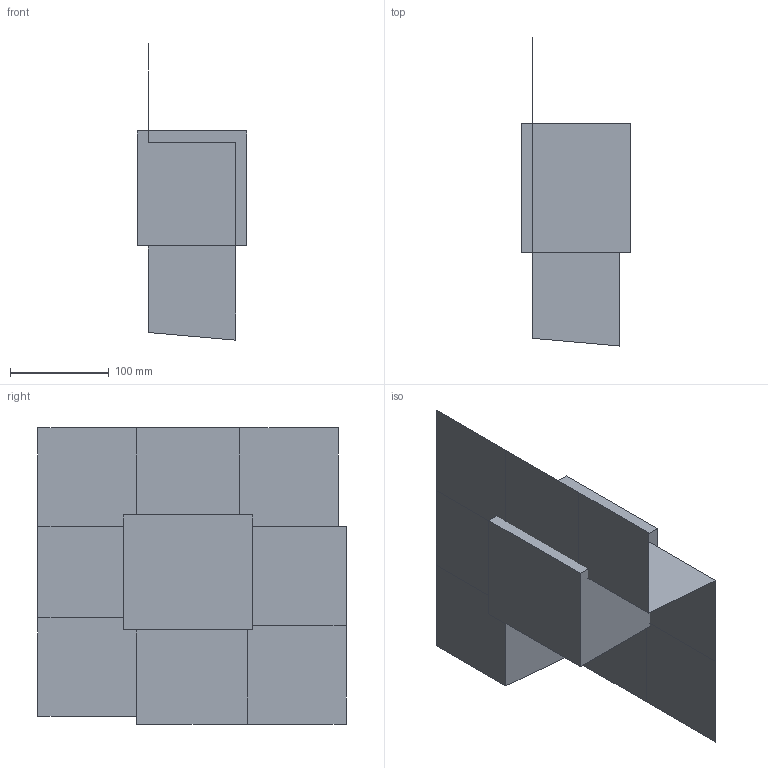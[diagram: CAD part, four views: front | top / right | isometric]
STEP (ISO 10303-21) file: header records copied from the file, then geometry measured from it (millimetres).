
FILE_DESCRIPTION(('CATIA V5 STEP Exchange'),'2;1');
FILE_NAME('C:\_Andres\UNIVERSIDAD\IQS\ASIGNATURAS\DAO\EXF\EXF-15161c\1original\Ripoll_Piera_Ej02-moldes_v21.stp','2016-03-04T15:45:42+00:00',('none'),('none'),'CATIA Version 5 Release 20 SP 1 (IN-10)','CATIA V5 STEP AP203','none');
FILE_SCHEMA(('CONFIG_CONTROL_DESIGN'));
Length unit declared in the file: millimetre
Products named in the file (1): Ripoll_Piera_Ej02-moldes_v21
Bounding box: 111 x 312.57 x 300.57 mm (x, y, z)
Volume: 3571215.2 mm3; surface area: 384150.8 mm2
Topology: 3 solids, 7 shells, 45 faces, 118 edges, 83 vertices
Faces by surface type: plane 41, cylinder 4
Entity records: 1101 total; most frequent: ORIENTED_EDGE 198, CARTESIAN_POINT 179, DIRECTION 147, EDGE_CURVE 83, VECTOR 73, LINE 73, VERTEX_POINT 56, EDGE_LOOP 49
